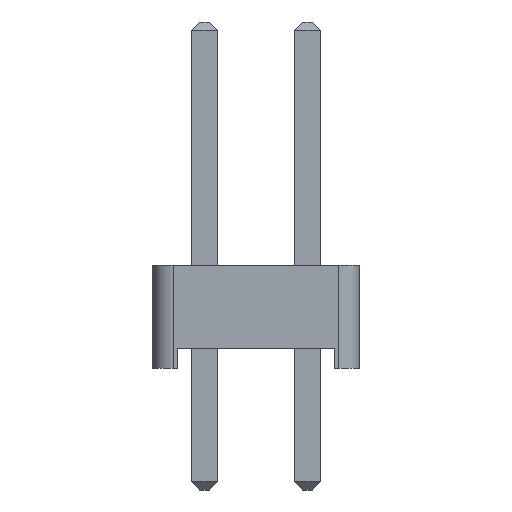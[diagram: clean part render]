
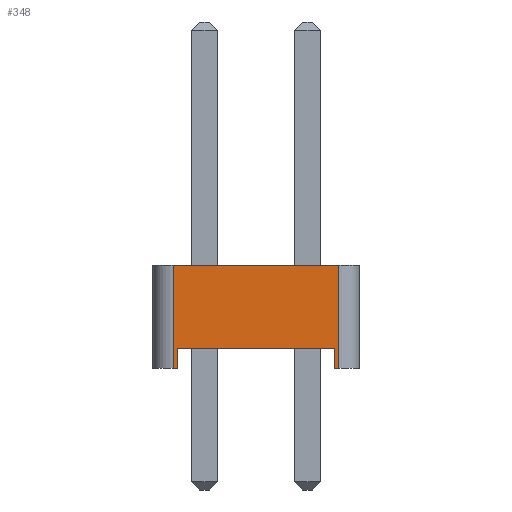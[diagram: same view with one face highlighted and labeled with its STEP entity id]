
A CAD part, left-side view. The second image highlights one B-rep face of the part: STEP entity #348.
In plain terms, the highlighted planar face has unit normal (-1, 0, 0).
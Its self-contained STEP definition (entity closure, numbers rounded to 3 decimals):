
#88 = VERTEX_POINT('',#89);
#89 = CARTESIAN_POINT('',(-1.27,2.04,0.));
#97 = PLANE('',#98);
#98 = AXIS2_PLACEMENT_3D('',#99,#100,#101);
#99 = CARTESIAN_POINT('',(0.,0.,0.));
#100 = DIRECTION('',(-0.,-0.,-1.));
#101 = DIRECTION('',(-1.,0.,0.));
#113 = CYLINDRICAL_SURFACE('',#114,0.5);
#114 = AXIS2_PLACEMENT_3D('',#115,#116,#117);
#115 = CARTESIAN_POINT('',(-0.77,2.04,0.));
#116 = DIRECTION('',(0.,0.,1.));
#117 = DIRECTION('',(0.,1.,0.));
#215 = VERTEX_POINT('',#216);
#216 = CARTESIAN_POINT('',(-1.27,1.94,0.));
#230 = PLANE('',#231);
#231 = AXIS2_PLACEMENT_3D('',#232,#233,#234);
#232 = CARTESIAN_POINT('',(1.27,1.94,0.));
#233 = DIRECTION('',(0.,-1.,0.));
#234 = DIRECTION('',(-1.,0.,0.));
#242 = EDGE_CURVE('',#215,#88,#243,.T.);
#243 = SURFACE_CURVE('',#244,(#248,#255),.PCURVE_S1.);
#244 = LINE('',#245,#246);
#245 = CARTESIAN_POINT('',(-1.27,-2.54,0.));
#246 = VECTOR('',#247,1.);
#247 = DIRECTION('',(0.,1.,0.));
#248 = PCURVE('',#97,#249);
#249 = DEFINITIONAL_REPRESENTATION('',(#250),#254);
#250 = LINE('',#251,#252);
#251 = CARTESIAN_POINT('',(1.27,-2.54));
#252 = VECTOR('',#253,1.);
#253 = DIRECTION('',(0.,1.));
#254 = ( GEOMETRIC_REPRESENTATION_CONTEXT(2) 
PARAMETRIC_REPRESENTATION_CONTEXT() REPRESENTATION_CONTEXT('2D SPACE',''
  ) );
#255 = PCURVE('',#256,#261);
#256 = PLANE('',#257);
#257 = AXIS2_PLACEMENT_3D('',#258,#259,#260);
#258 = CARTESIAN_POINT('',(-1.27,-2.54,0.));
#259 = DIRECTION('',(-1.,0.,0.));
#260 = DIRECTION('',(0.,1.,0.));
#261 = DEFINITIONAL_REPRESENTATION('',(#262),#266);
#262 = LINE('',#263,#264);
#263 = CARTESIAN_POINT('',(0.,0.));
#264 = VECTOR('',#265,1.);
#265 = DIRECTION('',(1.,0.));
#266 = ( GEOMETRIC_REPRESENTATION_CONTEXT(2) 
PARAMETRIC_REPRESENTATION_CONTEXT() REPRESENTATION_CONTEXT('2D SPACE',''
  ) );
#272 = EDGE_CURVE('',#88,#273,#275,.T.);
#273 = VERTEX_POINT('',#274);
#274 = CARTESIAN_POINT('',(-1.27,2.04,2.54));
#275 = SURFACE_CURVE('',#276,(#280,#287),.PCURVE_S1.);
#276 = LINE('',#277,#278);
#277 = CARTESIAN_POINT('',(-1.27,2.04,0.));
#278 = VECTOR('',#279,1.);
#279 = DIRECTION('',(0.,0.,1.));
#280 = PCURVE('',#113,#281);
#281 = DEFINITIONAL_REPRESENTATION('',(#282),#286);
#282 = LINE('',#283,#284);
#283 = CARTESIAN_POINT('',(1.571,0.));
#284 = VECTOR('',#285,1.);
#285 = DIRECTION('',(0.,1.));
#286 = ( GEOMETRIC_REPRESENTATION_CONTEXT(2) 
PARAMETRIC_REPRESENTATION_CONTEXT() REPRESENTATION_CONTEXT('2D SPACE',''
  ) );
#287 = PCURVE('',#256,#288);
#288 = DEFINITIONAL_REPRESENTATION('',(#289),#293);
#289 = LINE('',#290,#291);
#290 = CARTESIAN_POINT('',(4.58,0.));
#291 = VECTOR('',#292,1.);
#292 = DIRECTION('',(0.,-1.));
#293 = ( GEOMETRIC_REPRESENTATION_CONTEXT(2) 
PARAMETRIC_REPRESENTATION_CONTEXT() REPRESENTATION_CONTEXT('2D SPACE',''
  ) );
#312 = PLANE('',#313);
#313 = AXIS2_PLACEMENT_3D('',#314,#315,#316);
#314 = CARTESIAN_POINT('',(0.,0.,2.54));
#315 = DIRECTION('',(-0.,-0.,-1.));
#316 = DIRECTION('',(-1.,0.,0.));
#348 = ADVANCED_FACE('',(#349),#256,.T.);
#349 = FACE_BOUND('',#350,.T.);
#350 = EDGE_LOOP('',(#351,#381,#409,#430,#431,#432,#455,#483));
#351 = ORIENTED_EDGE('',*,*,#352,.F.);
#352 = EDGE_CURVE('',#353,#355,#357,.T.);
#353 = VERTEX_POINT('',#354);
#354 = CARTESIAN_POINT('',(-1.27,-2.04,0.));
#355 = VERTEX_POINT('',#356);
#356 = CARTESIAN_POINT('',(-1.27,-1.94,0.));
#357 = SURFACE_CURVE('',#358,(#362,#369),.PCURVE_S1.);
#358 = LINE('',#359,#360);
#359 = CARTESIAN_POINT('',(-1.27,-2.54,0.));
#360 = VECTOR('',#361,1.);
#361 = DIRECTION('',(0.,1.,0.));
#362 = PCURVE('',#256,#363);
#363 = DEFINITIONAL_REPRESENTATION('',(#364),#368);
#364 = LINE('',#365,#366);
#365 = CARTESIAN_POINT('',(0.,0.));
#366 = VECTOR('',#367,1.);
#367 = DIRECTION('',(1.,0.));
#368 = ( GEOMETRIC_REPRESENTATION_CONTEXT(2) 
PARAMETRIC_REPRESENTATION_CONTEXT() REPRESENTATION_CONTEXT('2D SPACE',''
  ) );
#369 = PCURVE('',#370,#375);
#370 = PLANE('',#371);
#371 = AXIS2_PLACEMENT_3D('',#372,#373,#374);
#372 = CARTESIAN_POINT('',(0.,0.,0.));
#373 = DIRECTION('',(-0.,-0.,-1.));
#374 = DIRECTION('',(-1.,0.,0.));
#375 = DEFINITIONAL_REPRESENTATION('',(#376),#380);
#376 = LINE('',#377,#378);
#377 = CARTESIAN_POINT('',(1.27,-2.54));
#378 = VECTOR('',#379,1.);
#379 = DIRECTION('',(0.,1.));
#380 = ( GEOMETRIC_REPRESENTATION_CONTEXT(2) 
PARAMETRIC_REPRESENTATION_CONTEXT() REPRESENTATION_CONTEXT('2D SPACE',''
  ) );
#381 = ORIENTED_EDGE('',*,*,#382,.T.);
#382 = EDGE_CURVE('',#353,#383,#385,.T.);
#383 = VERTEX_POINT('',#384);
#384 = CARTESIAN_POINT('',(-1.27,-2.04,2.54));
#385 = SURFACE_CURVE('',#386,(#390,#397),.PCURVE_S1.);
#386 = LINE('',#387,#388);
#387 = CARTESIAN_POINT('',(-1.27,-2.04,0.));
#388 = VECTOR('',#389,1.);
#389 = DIRECTION('',(0.,0.,1.));
#390 = PCURVE('',#256,#391);
#391 = DEFINITIONAL_REPRESENTATION('',(#392),#396);
#392 = LINE('',#393,#394);
#393 = CARTESIAN_POINT('',(0.5,0.));
#394 = VECTOR('',#395,1.);
#395 = DIRECTION('',(0.,-1.));
#396 = ( GEOMETRIC_REPRESENTATION_CONTEXT(2) 
PARAMETRIC_REPRESENTATION_CONTEXT() REPRESENTATION_CONTEXT('2D SPACE',''
  ) );
#397 = PCURVE('',#398,#403);
#398 = CYLINDRICAL_SURFACE('',#399,0.5);
#399 = AXIS2_PLACEMENT_3D('',#400,#401,#402);
#400 = CARTESIAN_POINT('',(-0.77,-2.04,0.));
#401 = DIRECTION('',(0.,0.,1.));
#402 = DIRECTION('',(0.,-1.,0.));
#403 = DEFINITIONAL_REPRESENTATION('',(#404),#408);
#404 = LINE('',#405,#406);
#405 = CARTESIAN_POINT('',(-1.571,0.));
#406 = VECTOR('',#407,1.);
#407 = DIRECTION('',(-0.,1.));
#408 = ( GEOMETRIC_REPRESENTATION_CONTEXT(2) 
PARAMETRIC_REPRESENTATION_CONTEXT() REPRESENTATION_CONTEXT('2D SPACE',''
  ) );
#409 = ORIENTED_EDGE('',*,*,#410,.T.);
#410 = EDGE_CURVE('',#383,#273,#411,.T.);
#411 = SURFACE_CURVE('',#412,(#416,#423),.PCURVE_S1.);
#412 = LINE('',#413,#414);
#413 = CARTESIAN_POINT('',(-1.27,-2.54,2.54));
#414 = VECTOR('',#415,1.);
#415 = DIRECTION('',(0.,1.,0.));
#416 = PCURVE('',#256,#417);
#417 = DEFINITIONAL_REPRESENTATION('',(#418),#422);
#418 = LINE('',#419,#420);
#419 = CARTESIAN_POINT('',(0.,-2.54));
#420 = VECTOR('',#421,1.);
#421 = DIRECTION('',(1.,0.));
#422 = ( GEOMETRIC_REPRESENTATION_CONTEXT(2) 
PARAMETRIC_REPRESENTATION_CONTEXT() REPRESENTATION_CONTEXT('2D SPACE',''
  ) );
#423 = PCURVE('',#312,#424);
#424 = DEFINITIONAL_REPRESENTATION('',(#425),#429);
#425 = LINE('',#426,#427);
#426 = CARTESIAN_POINT('',(1.27,-2.54));
#427 = VECTOR('',#428,1.);
#428 = DIRECTION('',(0.,1.));
#429 = ( GEOMETRIC_REPRESENTATION_CONTEXT(2) 
PARAMETRIC_REPRESENTATION_CONTEXT() REPRESENTATION_CONTEXT('2D SPACE',''
  ) );
#430 = ORIENTED_EDGE('',*,*,#272,.F.);
#431 = ORIENTED_EDGE('',*,*,#242,.F.);
#432 = ORIENTED_EDGE('',*,*,#433,.T.);
#433 = EDGE_CURVE('',#215,#434,#436,.T.);
#434 = VERTEX_POINT('',#435);
#435 = CARTESIAN_POINT('',(-1.27,1.94,0.5));
#436 = SURFACE_CURVE('',#437,(#441,#448),.PCURVE_S1.);
#437 = LINE('',#438,#439);
#438 = CARTESIAN_POINT('',(-1.27,1.94,0.));
#439 = VECTOR('',#440,1.);
#440 = DIRECTION('',(0.,0.,1.));
#441 = PCURVE('',#256,#442);
#442 = DEFINITIONAL_REPRESENTATION('',(#443),#447);
#443 = LINE('',#444,#445);
#444 = CARTESIAN_POINT('',(4.48,0.));
#445 = VECTOR('',#446,1.);
#446 = DIRECTION('',(0.,-1.));
#447 = ( GEOMETRIC_REPRESENTATION_CONTEXT(2) 
PARAMETRIC_REPRESENTATION_CONTEXT() REPRESENTATION_CONTEXT('2D SPACE',''
  ) );
#448 = PCURVE('',#230,#449);
#449 = DEFINITIONAL_REPRESENTATION('',(#450),#454);
#450 = LINE('',#451,#452);
#451 = CARTESIAN_POINT('',(2.54,0.));
#452 = VECTOR('',#453,1.);
#453 = DIRECTION('',(0.,-1.));
#454 = ( GEOMETRIC_REPRESENTATION_CONTEXT(2) 
PARAMETRIC_REPRESENTATION_CONTEXT() REPRESENTATION_CONTEXT('2D SPACE',''
  ) );
#455 = ORIENTED_EDGE('',*,*,#456,.T.);
#456 = EDGE_CURVE('',#434,#457,#459,.T.);
#457 = VERTEX_POINT('',#458);
#458 = CARTESIAN_POINT('',(-1.27,-1.94,0.5));
#459 = SURFACE_CURVE('',#460,(#464,#471),.PCURVE_S1.);
#460 = LINE('',#461,#462);
#461 = CARTESIAN_POINT('',(-1.27,1.94,0.5));
#462 = VECTOR('',#463,1.);
#463 = DIRECTION('',(0.,-1.,0.));
#464 = PCURVE('',#256,#465);
#465 = DEFINITIONAL_REPRESENTATION('',(#466),#470);
#466 = LINE('',#467,#468);
#467 = CARTESIAN_POINT('',(4.48,-0.5));
#468 = VECTOR('',#469,1.);
#469 = DIRECTION('',(-1.,0.));
#470 = ( GEOMETRIC_REPRESENTATION_CONTEXT(2) 
PARAMETRIC_REPRESENTATION_CONTEXT() REPRESENTATION_CONTEXT('2D SPACE',''
  ) );
#471 = PCURVE('',#472,#477);
#472 = PLANE('',#473);
#473 = AXIS2_PLACEMENT_3D('',#474,#475,#476);
#474 = CARTESIAN_POINT('',(0.,0.,0.5));
#475 = DIRECTION('',(0.,0.,1.));
#476 = DIRECTION('',(1.,0.,0.));
#477 = DEFINITIONAL_REPRESENTATION('',(#478),#482);
#478 = LINE('',#479,#480);
#479 = CARTESIAN_POINT('',(-1.27,1.94));
#480 = VECTOR('',#481,1.);
#481 = DIRECTION('',(0.,-1.));
#482 = ( GEOMETRIC_REPRESENTATION_CONTEXT(2) 
PARAMETRIC_REPRESENTATION_CONTEXT() REPRESENTATION_CONTEXT('2D SPACE',''
  ) );
#483 = ORIENTED_EDGE('',*,*,#484,.F.);
#484 = EDGE_CURVE('',#355,#457,#485,.T.);
#485 = SURFACE_CURVE('',#486,(#490,#497),.PCURVE_S1.);
#486 = LINE('',#487,#488);
#487 = CARTESIAN_POINT('',(-1.27,-1.94,0.));
#488 = VECTOR('',#489,1.);
#489 = DIRECTION('',(0.,0.,1.));
#490 = PCURVE('',#256,#491);
#491 = DEFINITIONAL_REPRESENTATION('',(#492),#496);
#492 = LINE('',#493,#494);
#493 = CARTESIAN_POINT('',(0.6,0.));
#494 = VECTOR('',#495,1.);
#495 = DIRECTION('',(0.,-1.));
#496 = ( GEOMETRIC_REPRESENTATION_CONTEXT(2) 
PARAMETRIC_REPRESENTATION_CONTEXT() REPRESENTATION_CONTEXT('2D SPACE',''
  ) );
#497 = PCURVE('',#498,#503);
#498 = PLANE('',#499);
#499 = AXIS2_PLACEMENT_3D('',#500,#501,#502);
#500 = CARTESIAN_POINT('',(-1.27,-1.94,0.));
#501 = DIRECTION('',(0.,1.,0.));
#502 = DIRECTION('',(1.,0.,0.));
#503 = DEFINITIONAL_REPRESENTATION('',(#504),#508);
#504 = LINE('',#505,#506);
#505 = CARTESIAN_POINT('',(0.,0.));
#506 = VECTOR('',#507,1.);
#507 = DIRECTION('',(0.,-1.));
#508 = ( GEOMETRIC_REPRESENTATION_CONTEXT(2) 
PARAMETRIC_REPRESENTATION_CONTEXT() REPRESENTATION_CONTEXT('2D SPACE',''
  ) );
